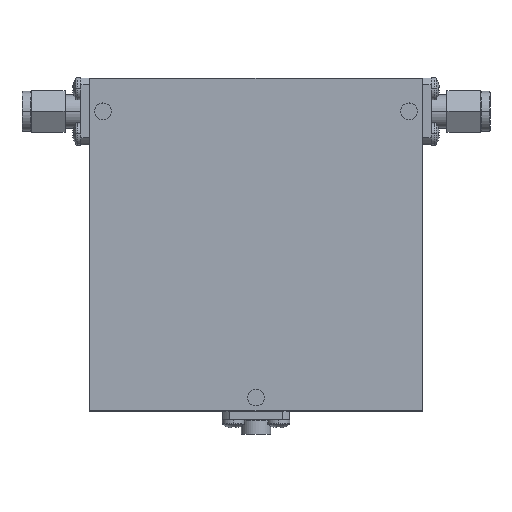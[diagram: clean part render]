
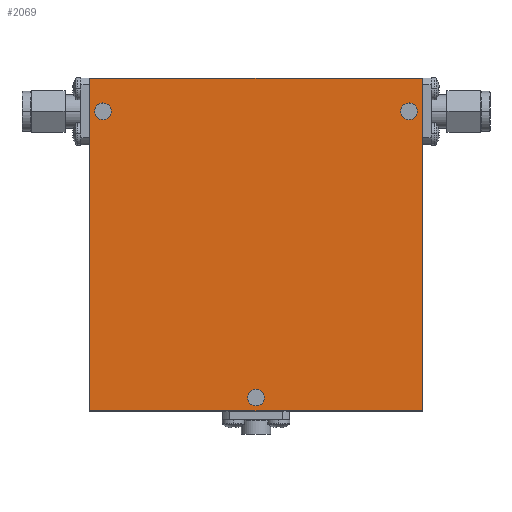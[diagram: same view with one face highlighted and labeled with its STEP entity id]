
A CAD part, top view. The second image highlights one B-rep face of the part: STEP entity #2069.
In plain terms, the highlighted planar face has unit normal (0, 0, 1).
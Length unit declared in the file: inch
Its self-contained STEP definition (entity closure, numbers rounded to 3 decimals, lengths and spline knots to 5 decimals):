
#12 = CARTESIAN_POINT ( 'NONE',  ( 0., -1.15, 0.365 ) ) ;
#44 = EDGE_CURVE ( 'NONE', #3902, #3951, #357, .T. ) ;
#55 = ORIENTED_EDGE ( 'NONE', *, *, #2459, .F. ) ;
#105 = DIRECTION ( 'NONE',  ( 0., 0., 1. ) ) ;
#137 = DIRECTION ( 'NONE',  ( 1., 0., 0. ) ) ;
#167 = CIRCLE ( 'NONE', #3940, 0.0625 ) ;
#254 = LINE ( 'NONE', #4270, #3107 ) ;
#299 = DIRECTION ( 'NONE',  ( 1., 0., 0. ) ) ;
#320 = DIRECTION ( 'NONE',  ( 1., 0., 0. ) ) ;
#326 = EDGE_CURVE ( 'NONE', #844, #1571, #254, .T. ) ;
#333 = LINE ( 'NONE', #4246, #3291 ) ;
#357 = CIRCLE ( 'NONE', #2361, 0.0625 ) ;
#372 = ORIENTED_EDGE ( 'NONE', *, *, #4055, .T. ) ;
#455 = DIRECTION ( 'NONE',  ( 0., 0., 1. ) ) ;
#515 = CARTESIAN_POINT ( 'NONE',  ( -1.15, 1., 0.365 ) ) ;
#591 = LINE ( 'NONE', #696, #2230 ) ;
#629 = ORIENTED_EDGE ( 'NONE', *, *, #44, .F. ) ;
#634 = AXIS2_PLACEMENT_3D ( 'NONE', #515, #455, #1154 ) ;
#696 = CARTESIAN_POINT ( 'NONE',  ( -1.25, 1.25, 0.365 ) ) ;
#745 = CARTESIAN_POINT ( 'NONE',  ( -1.25, 1.25, 0.365 ) ) ;
#844 = VERTEX_POINT ( 'NONE', #2678 ) ;
#871 = DIRECTION ( 'NONE',  ( 1., 0., 0. ) ) ;
#1033 = AXIS2_PLACEMENT_3D ( 'NONE', #1685, #2349, #320 ) ;
#1154 = DIRECTION ( 'NONE',  ( 1., 0., 0. ) ) ;
#1303 = DIRECTION ( 'NONE',  ( 0., 0., 1. ) ) ;
#1343 = CARTESIAN_POINT ( 'NONE',  ( 0.0625, -1.15, 0.365 ) ) ;
#1377 = ORIENTED_EDGE ( 'NONE', *, *, #3507, .F. ) ;
#1415 = CARTESIAN_POINT ( 'NONE',  ( -1.15, 1., 0.365 ) ) ;
#1460 = DIRECTION ( 'NONE',  ( 0., -1., 0. ) ) ;
#1467 = CARTESIAN_POINT ( 'NONE',  ( 0., 0., 0.365 ) ) ;
#1484 = CIRCLE ( 'NONE', #3079, 0.0625 ) ;
#1523 = EDGE_CURVE ( 'NONE', #3930, #844, #333, .T. ) ;
#1571 = VERTEX_POINT ( 'NONE', #2917 ) ;
#1589 = FACE_BOUND ( 'NONE', #4053, .T. ) ;
#1640 = DIRECTION ( 'NONE',  ( 1., 0., 0. ) ) ;
#1662 = CARTESIAN_POINT ( 'NONE',  ( 1.2125, 1., 0.365 ) ) ;
#1685 = CARTESIAN_POINT ( 'NONE',  ( 1.15, 1., 0.365 ) ) ;
#1750 = EDGE_LOOP ( 'NONE', ( #629, #1377 ) ) ;
#1785 = DIRECTION ( 'NONE',  ( 1., 0., 0. ) ) ;
#1998 = ORIENTED_EDGE ( 'NONE', *, *, #2966, .T. ) ;
#2069 = ADVANCED_FACE ( 'NONE', ( #2710, #2918, #1589, #3235 ), #3136, .T. ) ;
#2086 = CARTESIAN_POINT ( 'NONE',  ( 0., -1.15, 0.365 ) ) ;
#2120 = CIRCLE ( 'NONE', #1033, 0.0625 ) ;
#2208 = ORIENTED_EDGE ( 'NONE', *, *, #4199, .F. ) ;
#2222 = DIRECTION ( 'NONE',  ( 0., 1., 0. ) ) ;
#2230 = VECTOR ( 'NONE', #3094, 39.37008 ) ;
#2272 = LINE ( 'NONE', #745, #3612 ) ;
#2349 = DIRECTION ( 'NONE',  ( 0., 0., 1. ) ) ;
#2361 = AXIS2_PLACEMENT_3D ( 'NONE', #3997, #1303, #299 ) ;
#2459 = EDGE_CURVE ( 'NONE', #3800, #3460, #167, .T. ) ;
#2462 = DIRECTION ( 'NONE',  ( 0., 0., 1. ) ) ;
#2586 = ORIENTED_EDGE ( 'NONE', *, *, #2989, .F. ) ;
#2635 = VERTEX_POINT ( 'NONE', #2872 ) ;
#2678 = CARTESIAN_POINT ( 'NONE',  ( 1.25, -1.25, 0.365 ) ) ;
#2710 = FACE_BOUND ( 'NONE', #1750, .T. ) ;
#2718 = CARTESIAN_POINT ( 'NONE',  ( -1.25, -1.25, 0.365 ) ) ;
#2872 = CARTESIAN_POINT ( 'NONE',  ( -1.0875, 1., 0.365 ) ) ;
#2917 = CARTESIAN_POINT ( 'NONE',  ( 1.25, 1.25, 0.365 ) ) ;
#2918 = FACE_BOUND ( 'NONE', #4316, .T. ) ;
#2951 = ORIENTED_EDGE ( 'NONE', *, *, #1523, .T. ) ;
#2966 = EDGE_CURVE ( 'NONE', #1571, #2967, #591, .T. ) ;
#2967 = VERTEX_POINT ( 'NONE', #3103 ) ;
#2989 = EDGE_CURVE ( 'NONE', #3424, #2635, #1484, .T. ) ;
#3079 = AXIS2_PLACEMENT_3D ( 'NONE', #1415, #2462, #3452 ) ;
#3094 = DIRECTION ( 'NONE',  ( -1., 0., 0. ) ) ;
#3103 = CARTESIAN_POINT ( 'NONE',  ( -1.25, 1.25, 0.365 ) ) ;
#3107 = VECTOR ( 'NONE', #2222, 39.37008 ) ;
#3136 = PLANE ( 'NONE',  #3412 ) ;
#3189 = CARTESIAN_POINT ( 'NONE',  ( -0.0625, -1.15, 0.365 ) ) ;
#3235 = FACE_OUTER_BOUND ( 'NONE', #4066, .T. ) ;
#3291 = VECTOR ( 'NONE', #871, 39.37008 ) ;
#3347 = DIRECTION ( 'NONE',  ( 0., 0., 1. ) ) ;
#3412 = AXIS2_PLACEMENT_3D ( 'NONE', #1467, #105, #137 ) ;
#3424 = VERTEX_POINT ( 'NONE', #3967 ) ;
#3452 = DIRECTION ( 'NONE',  ( 1., 0., 0. ) ) ;
#3460 = VERTEX_POINT ( 'NONE', #1343 ) ;
#3507 = EDGE_CURVE ( 'NONE', #3951, #3902, #2120, .T. ) ;
#3553 = CIRCLE ( 'NONE', #3974, 0.0625 ) ;
#3560 = EDGE_CURVE ( 'NONE', #3460, #3800, #3553, .T. ) ;
#3589 = ORIENTED_EDGE ( 'NONE', *, *, #3560, .F. ) ;
#3612 = VECTOR ( 'NONE', #1460, 39.37008 ) ;
#3679 = CIRCLE ( 'NONE', #634, 0.0625 ) ;
#3800 = VERTEX_POINT ( 'NONE', #3189 ) ;
#3902 = VERTEX_POINT ( 'NONE', #1662 ) ;
#3930 = VERTEX_POINT ( 'NONE', #2718 ) ;
#3940 = AXIS2_PLACEMENT_3D ( 'NONE', #12, #3347, #1640 ) ;
#3951 = VERTEX_POINT ( 'NONE', #4076 ) ;
#3967 = CARTESIAN_POINT ( 'NONE',  ( -1.2125, 1., 0.365 ) ) ;
#3974 = AXIS2_PLACEMENT_3D ( 'NONE', #2086, #4143, #1785 ) ;
#3997 = CARTESIAN_POINT ( 'NONE',  ( 1.15, 1., 0.365 ) ) ;
#4053 = EDGE_LOOP ( 'NONE', ( #2208, #2586 ) ) ;
#4055 = EDGE_CURVE ( 'NONE', #2967, #3930, #2272, .T. ) ;
#4066 = EDGE_LOOP ( 'NONE', ( #4167, #1998, #372, #2951 ) ) ;
#4076 = CARTESIAN_POINT ( 'NONE',  ( 1.0875, 1., 0.365 ) ) ;
#4143 = DIRECTION ( 'NONE',  ( 0., 0., 1. ) ) ;
#4167 = ORIENTED_EDGE ( 'NONE', *, *, #326, .T. ) ;
#4199 = EDGE_CURVE ( 'NONE', #2635, #3424, #3679, .T. ) ;
#4246 = CARTESIAN_POINT ( 'NONE',  ( -1.25, -1.25, 0.365 ) ) ;
#4270 = CARTESIAN_POINT ( 'NONE',  ( 1.25, 1.25, 0.365 ) ) ;
#4316 = EDGE_LOOP ( 'NONE', ( #3589, #55 ) ) ;
